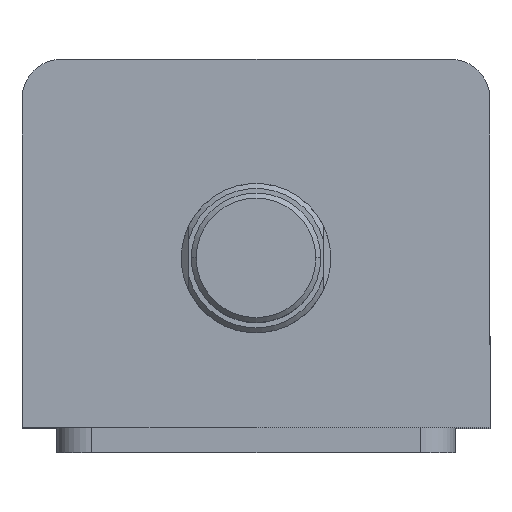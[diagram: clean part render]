
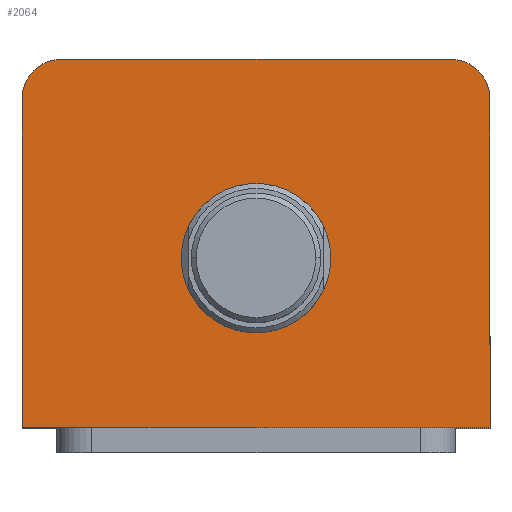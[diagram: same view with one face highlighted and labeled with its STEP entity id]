
A CAD part, top view. The second image highlights one B-rep face of the part: STEP entity #2064.
In plain terms, the highlighted planar face has unit normal (0, 0, 1).
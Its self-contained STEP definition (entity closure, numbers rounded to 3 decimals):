
#77 = VECTOR ( 'NONE', #3071, 1000. ) ;
#146 = CIRCLE ( 'NONE', #1131, 8. ) ;
#160 = CIRCLE ( 'NONE', #1139, 8. ) ;
#168 = LINE ( 'NONE', #2575, #171 ) ;
#171 = VECTOR ( 'NONE', #2468, 1000. ) ;
#184 = LINE ( 'NONE', #2523, #187 ) ;
#187 = VECTOR ( 'NONE', #2540, 1000. ) ;
#201 = CIRCLE ( 'NONE', #1144, 15. ) ;
#253 = CIRCLE ( 'NONE', #691, 15. ) ;
#360 = FACE_OUTER_BOUND ( 'NONE', #2216, .T. ) ;
#370 = FACE_BOUND ( 'NONE', #2248, .T. ) ;
#691 = AXIS2_PLACEMENT_3D ( 'NONE', #2573, #2572, #2571 ) ;
#735 = AXIS2_PLACEMENT_3D ( 'NONE', #1209, #1213, #1214 ) ;
#919 = EDGE_CURVE ( 'NONE', #2665, #2654, #2926, .T. ) ;
#943 = EDGE_CURVE ( 'NONE', #2692, #2694, #2906, .T. ) ;
#956 = EDGE_CURVE ( 'NONE', #2654, #2692, #146, .T. ) ;
#966 = EDGE_CURVE ( 'NONE', #2694, #2682, #160, .T. ) ;
#972 = EDGE_CURVE ( 'NONE', #2594, #2665, #168, .T. ) ;
#980 = EDGE_CURVE ( 'NONE', #2682, #2594, #184, .T. ) ;
#989 = EDGE_CURVE ( 'NONE', #2891, #2796, #201, .T. ) ;
#1023 = EDGE_CURVE ( 'NONE', #2796, #2891, #253, .T. ) ;
#1131 = AXIS2_PLACEMENT_3D ( 'NONE', #3090, #3088, #3087 ) ;
#1139 = AXIS2_PLACEMENT_3D ( 'NONE', #2997, #2995, #2993 ) ;
#1144 = AXIS2_PLACEMENT_3D ( 'NONE', #2465, #2583, #2582 ) ;
#1206 = PLANE ( 'NONE',  #735 ) ;
#1209 = CARTESIAN_POINT ( 'NONE',  ( 0., 0., 145. ) ) ;
#1213 = DIRECTION ( 'NONE',  ( 0., 0., 1. ) ) ;
#1214 = DIRECTION ( 'NONE',  ( 1., 0., 0. ) ) ;
#1529 = CARTESIAN_POINT ( 'NONE',  ( -47., -37., 145. ) ) ;
#1545 = CARTESIAN_POINT ( 'NONE',  ( 47., 29., 145. ) ) ;
#1549 = CARTESIAN_POINT ( 'NONE',  ( 47., -37., 145. ) ) ;
#1550 = CARTESIAN_POINT ( 'NONE',  ( -47., 29., 145. ) ) ;
#1558 = CARTESIAN_POINT ( 'NONE',  ( 39., 37., 145. ) ) ;
#1559 = CARTESIAN_POINT ( 'NONE',  ( -39., 37., 145. ) ) ;
#1568 = CARTESIAN_POINT ( 'NONE',  ( -15., -3., 145. ) ) ;
#1637 = CARTESIAN_POINT ( 'NONE',  ( 15., -3., 145. ) ) ;
#1867 = ORIENTED_EDGE ( 'NONE', *, *, #989, .F. ) ;
#2064 = ADVANCED_FACE ( 'NONE', ( #370, #360 ), #1206, .T. ) ;
#2216 = EDGE_LOOP ( 'NONE', ( #2598, #2743, #2748, #2644, #2725, #2763 ) ) ;
#2248 = EDGE_LOOP ( 'NONE', ( #1867, #2766 ) ) ;
#2465 = CARTESIAN_POINT ( 'NONE',  ( 0., -3., 145. ) ) ;
#2468 = DIRECTION ( 'NONE',  ( 1., 0., 0. ) ) ;
#2523 = CARTESIAN_POINT ( 'NONE',  ( -47., 37., 145. ) ) ;
#2540 = DIRECTION ( 'NONE',  ( 0., -1., 0. ) ) ;
#2571 = DIRECTION ( 'NONE',  ( 1., 0., 0. ) ) ;
#2572 = DIRECTION ( 'NONE',  ( 0., 0., 1. ) ) ;
#2573 = CARTESIAN_POINT ( 'NONE',  ( 0., -3., 145. ) ) ;
#2575 = CARTESIAN_POINT ( 'NONE',  ( -47., -37., 145. ) ) ;
#2582 = DIRECTION ( 'NONE',  ( 1., 0., 0. ) ) ;
#2583 = DIRECTION ( 'NONE',  ( 0., 0., 1. ) ) ;
#2594 = VERTEX_POINT ( 'NONE', #1529 ) ;
#2598 = ORIENTED_EDGE ( 'NONE', *, *, #943, .T. ) ;
#2644 = ORIENTED_EDGE ( 'NONE', *, *, #972, .T. ) ;
#2654 = VERTEX_POINT ( 'NONE', #1545 ) ;
#2665 = VERTEX_POINT ( 'NONE', #1549 ) ;
#2682 = VERTEX_POINT ( 'NONE', #1550 ) ;
#2692 = VERTEX_POINT ( 'NONE', #1558 ) ;
#2694 = VERTEX_POINT ( 'NONE', #1559 ) ;
#2725 = ORIENTED_EDGE ( 'NONE', *, *, #919, .T. ) ;
#2743 = ORIENTED_EDGE ( 'NONE', *, *, #966, .T. ) ;
#2748 = ORIENTED_EDGE ( 'NONE', *, *, #980, .T. ) ;
#2763 = ORIENTED_EDGE ( 'NONE', *, *, #956, .T. ) ;
#2766 = ORIENTED_EDGE ( 'NONE', *, *, #1023, .F. ) ;
#2796 = VERTEX_POINT ( 'NONE', #1568 ) ;
#2891 = VERTEX_POINT ( 'NONE', #1637 ) ;
#2906 = LINE ( 'NONE', #2950, #77 ) ;
#2922 = VECTOR ( 'NONE', #2953, 1000. ) ;
#2926 = LINE ( 'NONE', #2960, #2922 ) ;
#2950 = CARTESIAN_POINT ( 'NONE',  ( -47., 37., 145. ) ) ;
#2953 = DIRECTION ( 'NONE',  ( 0., 1., 0. ) ) ;
#2960 = CARTESIAN_POINT ( 'NONE',  ( 47., 37., 145. ) ) ;
#2993 = DIRECTION ( 'NONE',  ( 1., 0., 0. ) ) ;
#2995 = DIRECTION ( 'NONE',  ( 0., 0., 1. ) ) ;
#2997 = CARTESIAN_POINT ( 'NONE',  ( -39., 29., 145. ) ) ;
#3071 = DIRECTION ( 'NONE',  ( -1., 0., 0. ) ) ;
#3087 = DIRECTION ( 'NONE',  ( 1., 0., 0. ) ) ;
#3088 = DIRECTION ( 'NONE',  ( 0., 0., 1. ) ) ;
#3090 = CARTESIAN_POINT ( 'NONE',  ( 39., 29., 145. ) ) ;
